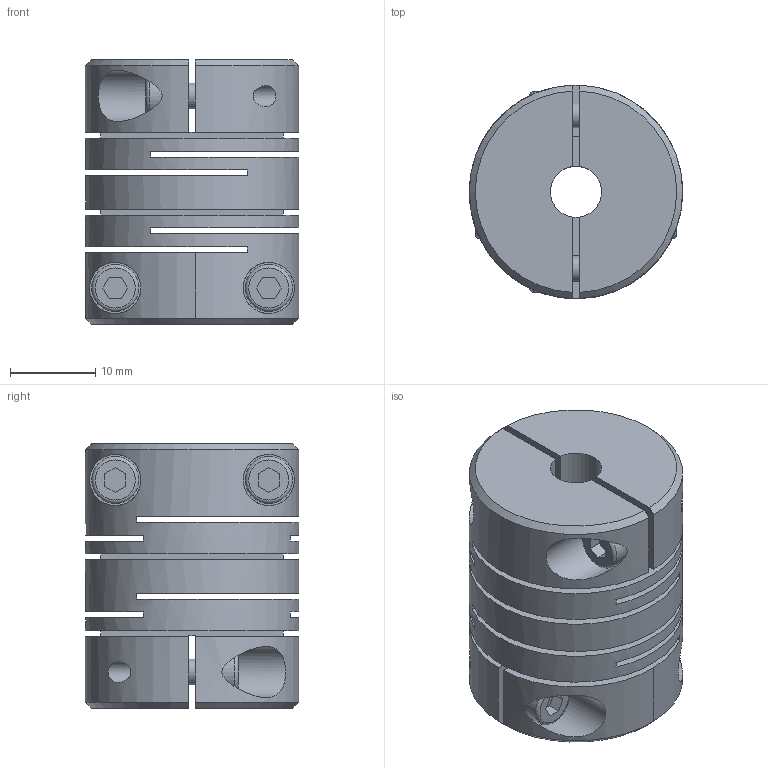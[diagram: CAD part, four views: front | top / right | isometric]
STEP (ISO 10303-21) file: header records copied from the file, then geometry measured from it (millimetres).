
FILE_DESCRIPTION (( 'STEP AP214' ), '1' );
FILE_NAME ('2246-25-B6-10-NI.step', '2022-05-27T09:30:59', ( '' ), ( '' ), 'SwSTEP 2.0', 'SolidWorks 2019', '' );
FILE_SCHEMA (( 'AUTOMOTIVE_DESIGN' ));
Length unit declared in the file: millimetre
Products named in the file (1): 2246-25-B6-10-NI
Bounding box: 25 x 24.99 x 31 mm (x, y, z)
Volume: 11307.5 mm3; surface area: 9457.3 mm2
Topology: 1 solids, 1 shells, 123 faces, 308 edges, 208 vertices
Faces by surface type: plane 79, cylinder 32, cone 8, torus 4
Full cylindrical faces by diameter (mm): 2.5 x4, 3 x4, 3.3 x4, 5.5 x4, 6 x7, 10 x3, 25 x1
Entity records: 4300 total; most frequent: CARTESIAN_POINT 975, DIRECTION 552, ORIENTED_EDGE 476, EDGE_CURVE 238, AXIS2_PLACEMENT_3D 207, EDGE_LOOP 200, VERTEX_POINT 178, FACE_OUTER_BOUND 153
